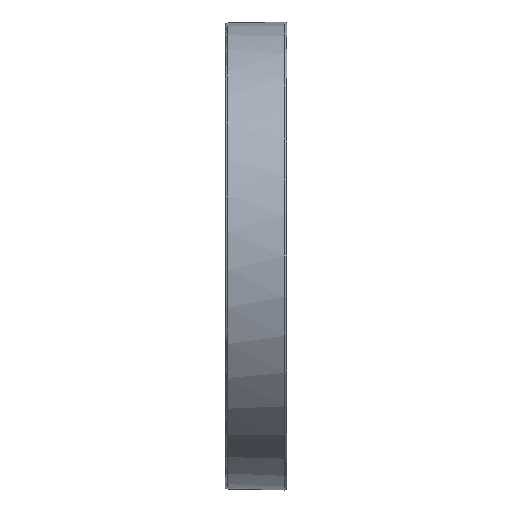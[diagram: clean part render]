
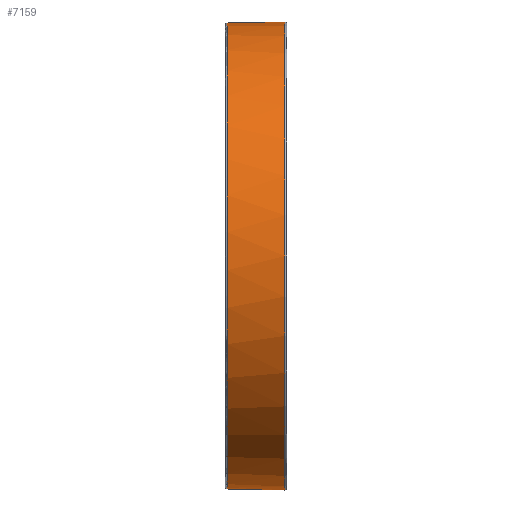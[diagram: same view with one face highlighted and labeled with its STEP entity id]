
A CAD part, left-side view. The second image highlights one B-rep face of the part: STEP entity #7159.
In plain terms, the highlighted conical face has half-angle 1 degrees and reference radius 60.325 mm.
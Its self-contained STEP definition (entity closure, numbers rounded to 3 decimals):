
#1112 = DIRECTION ( 'NONE',  ( 0., -1., 0.017 ) ) ;
#1464 = CARTESIAN_POINT ( 'NONE',  ( -16.49, 15.384, 57.757 ) ) ;
#1596 = CARTESIAN_POINT ( 'NONE',  ( -47.024, 15.384, 37.369 ) ) ;
#1711 = CARTESIAN_POINT ( 'NONE',  ( -60.053, 15.384, 4.01 ) ) ;
#1846 = CARTESIAN_POINT ( 'NONE',  ( -53.992, 15.384, -26.592 ) ) ;
#1985 = CARTESIAN_POINT ( 'NONE',  ( -24.846, 15.384, -54.711 ) ) ;
#3606 = CARTESIAN_POINT ( 'NONE',  ( 0., 0.509, 60.316 ) ) ;
#4447 = CARTESIAN_POINT ( 'NONE',  ( -21.157, 15.384, 56.24 ) ) ;
#4569 = CARTESIAN_POINT ( 'NONE',  ( -48.814, 15.384, 35. ) ) ;
#4700 = CARTESIAN_POINT ( 'NONE',  ( -60.034, 15.384, -1.931 ) ) ;
#4831 = CARTESIAN_POINT ( 'NONE',  ( -48.888, 15.384, -34.937 ) ) ;
#4954 = CARTESIAN_POINT ( 'NONE',  ( -19.393, 15.384, -56.873 ) ) ;
#4988 = DIRECTION ( 'NONE',  ( 0., 1., 0. ) ) ;
#5304 = ORIENTED_EDGE ( 'NONE', *, *, #8971, .T. ) ;
#7159 = ADVANCED_FACE ( 'NONE', ( #9709 ), #15804, .T. ) ;
#7442 = CARTESIAN_POINT ( 'NONE',  ( -26.54, 15.384, 53.91 ) ) ;
#7571 = CARTESIAN_POINT ( 'NONE',  ( -52.11, 15.384, 30.113 ) ) ;
#7687 = CARTESIAN_POINT ( 'NONE',  ( -59.866, 15.384, -4.882 ) ) ;
#7814 = CARTESIAN_POINT ( 'NONE',  ( -45.204, 15.384, -39.59 ) ) ;
#7951 = CARTESIAN_POINT ( 'NONE',  ( -15.63, 15.384, -57.995 ) ) ;
#8255 = CARTESIAN_POINT ( 'NONE',  ( 0., 0.509, -60.316 ) ) ;
#8971 = EDGE_CURVE ( 'NONE', #28688, #20255, #33424, .T. ) ;
#9420 = EDGE_CURVE ( 'NONE', #17404, #28688, #32938, .T. ) ;
#9709 = FACE_OUTER_BOUND ( 'NONE', #21672, .T. ) ;
#10026 = CARTESIAN_POINT ( 'NONE',  ( -3.919, 15.384, 60.056 ) ) ;
#10411 = CARTESIAN_POINT ( 'NONE',  ( -29.995, 15.384, 52.039 ) ) ;
#10532 = CARTESIAN_POINT ( 'NONE',  ( -55.84, 15.384, 22.127 ) ) ;
#10656 = CARTESIAN_POINT ( 'NONE',  ( -59.293, 15.384, -9.746 ) ) ;
#10786 = CARTESIAN_POINT ( 'NONE',  ( -39.726, 15.384, -45.21 ) ) ;
#10916 = CARTESIAN_POINT ( 'NONE',  ( -12.75, 15.384, -58.696 ) ) ;
#11051 = LINE ( 'NONE', #33916, #18105 ) ;
#11239 = ORIENTED_EDGE ( 'NONE', *, *, #23314, .T. ) ;
#13426 = CARTESIAN_POINT ( 'NONE',  ( -32.529, 15.384, 50.494 ) ) ;
#13556 = CARTESIAN_POINT ( 'NONE',  ( -56.864, 15.384, 19.346 ) ) ;
#13691 = CARTESIAN_POINT ( 'NONE',  ( -58.059, 15.384, -15.485 ) ) ;
#13812 = CARTESIAN_POINT ( 'NONE',  ( -32.612, 15.384, -50.44 ) ) ;
#13946 = CARTESIAN_POINT ( 'NONE',  ( -3.967, 15.384, -60.056 ) ) ;
#15804 = CONICAL_SURFACE ( 'NONE', #36925, 60.325, 0.017 ) ;
#16333 = CARTESIAN_POINT ( 'NONE',  ( -12.651, 15.384, 58.717 ) ) ;
#16466 = CARTESIAN_POINT ( 'NONE',  ( -39.666, 15.384, 45.263 ) ) ;
#16588 = CARTESIAN_POINT ( 'NONE',  ( -58.037, 15.384, 15.57 ) ) ;
#16706 = CARTESIAN_POINT ( 'NONE',  ( -56.897, 15.384, -19.248 ) ) ;
#16833 = DIRECTION ( 'NONE',  ( 0., 0., 1. ) ) ;
#16844 = CARTESIAN_POINT ( 'NONE',  ( -30.077, 15.384, -51.991 ) ) ;
#17109 = VECTOR ( 'NONE', #29066, 1000. ) ;
#17404 = VERTEX_POINT ( 'NONE', #26909 ) ;
#18105 = VECTOR ( 'NONE', #1112, 1000. ) ;
#19307 = CARTESIAN_POINT ( 'NONE',  ( -15.54, 15.384, 58.02 ) ) ;
#19428 = CARTESIAN_POINT ( 'NONE',  ( -45.142, 15.384, 39.659 ) ) ;
#19558 = CARTESIAN_POINT ( 'NONE',  ( -59.662, 15.384, 7.908 ) ) ;
#19688 = CARTESIAN_POINT ( 'NONE',  ( -55.875, 15.384, -22.039 ) ) ;
#19811 = CARTESIAN_POINT ( 'NONE',  ( -26.617, 15.384, -53.872 ) ) ;
#20255 = VERTEX_POINT ( 'NONE', #3606 ) ;
#21672 = EDGE_LOOP ( 'NONE', ( #11239, #25598, #5304, #28129 ) ) ;
#21978 = AXIS2_PLACEMENT_3D ( 'NONE', #22855, #4988, #25873 ) ;
#22307 = CARTESIAN_POINT ( 'NONE',  ( -19.313, 15.384, 56.9 ) ) ;
#22443 = CARTESIAN_POINT ( 'NONE',  ( -47.636, 15.384, 36.586 ) ) ;
#22569 = CARTESIAN_POINT ( 'NONE',  ( -60.057, 15.384, -0.939 ) ) ;
#22681 = CARTESIAN_POINT ( 'NONE',  ( 0., 0., 0. ) ) ;
#22694 = CARTESIAN_POINT ( 'NONE',  ( -52.15, 15.384, -30.043 ) ) ;
#22822 = CARTESIAN_POINT ( 'NONE',  ( -21.234, 15.384, -56.211 ) ) ;
#22855 = CARTESIAN_POINT ( 'NONE',  ( 0., 0.509, 0. ) ) ;
#23314 = EDGE_CURVE ( 'NONE', #34142, #17404, #38640, .T. ) ;
#24899 = CARTESIAN_POINT ( 'NONE',  ( 0., 15.384, 60.056 ) ) ;
#25320 = CARTESIAN_POINT ( 'NONE',  ( -24.771, 15.384, 54.745 ) ) ;
#25443 = CARTESIAN_POINT ( 'NONE',  ( -49.381, 15.384, 34.195 ) ) ;
#25573 = CARTESIAN_POINT ( 'NONE',  ( -59.938, 15.384, -3.901 ) ) ;
#25598 = ORIENTED_EDGE ( 'NONE', *, *, #9420, .T. ) ;
#25705 = CARTESIAN_POINT ( 'NONE',  ( -47.717, 15.384, -36.521 ) ) ;
#25840 = CARTESIAN_POINT ( 'NONE',  ( -16.578, 15.384, -57.732 ) ) ;
#25873 = DIRECTION ( 'NONE',  ( 0., 0., -1. ) ) ;
#26909 = CARTESIAN_POINT ( 'NONE',  ( 0., 15.384, -60.056 ) ) ;
#28129 = ORIENTED_EDGE ( 'NONE', *, *, #28326, .F. ) ;
#28287 = CARTESIAN_POINT ( 'NONE',  ( -29.139, 15.384, 52.523 ) ) ;
#28326 = EDGE_CURVE ( 'NONE', #34142, #20255, #11051, .T. ) ;
#28411 = CARTESIAN_POINT ( 'NONE',  ( -53.956, 15.384, 26.665 ) ) ;
#28547 = CARTESIAN_POINT ( 'NONE',  ( -59.579, 15.384, -7.811 ) ) ;
#28662 = CARTESIAN_POINT ( 'NONE',  ( -43.882, 15.384, -41.049 ) ) ;
#28688 = VERTEX_POINT ( 'NONE', #8255 ) ;
#28783 = CARTESIAN_POINT ( 'NONE',  ( -13.717, 15.384, -58.477 ) ) ;
#28937 = CARTESIAN_POINT ( 'NONE',  ( 0., 0., -60.325 ) ) ;
#29066 = DIRECTION ( 'NONE',  ( 0., -1., -0.017 ) ) ;
#31275 = CARTESIAN_POINT ( 'NONE',  ( -31.689, 15.384, 51.025 ) ) ;
#31402 = CARTESIAN_POINT ( 'NONE',  ( -56.196, 15.384, 21.207 ) ) ;
#31520 = CARTESIAN_POINT ( 'NONE',  ( -58.533, 15.384, -13.583 ) ) ;
#31650 = CARTESIAN_POINT ( 'NONE',  ( -36.706, 15.384, -47.697 ) ) ;
#31792 = CARTESIAN_POINT ( 'NONE',  ( -7.893, 15.384, -59.667 ) ) ;
#32938 = LINE ( 'NONE', #28937, #17109 ) ;
#33424 = CIRCLE ( 'NONE', #21978, 60.316 ) ;
#33769 = CARTESIAN_POINT ( 'NONE',  ( 0., 15.384, 60.056 ) ) ;
#33916 = CARTESIAN_POINT ( 'NONE',  ( 0., 0., 60.325 ) ) ;
#34142 = VERTEX_POINT ( 'NONE', #24899 ) ;
#34150 = CARTESIAN_POINT ( 'NONE',  ( -7.813, 15.384, 59.677 ) ) ;
#34276 = CARTESIAN_POINT ( 'NONE',  ( -36.64, 15.384, 47.748 ) ) ;
#34403 = CARTESIAN_POINT ( 'NONE',  ( -57.176, 15.384, 18.403 ) ) ;
#34535 = CARTESIAN_POINT ( 'NONE',  ( -57.205, 15.384, -18.311 ) ) ;
#34646 = DIRECTION ( 'NONE',  ( 0., -1., 0. ) ) ;
#34655 = CARTESIAN_POINT ( 'NONE',  ( -31.776, 15.384, -50.971 ) ) ;
#34784 = CARTESIAN_POINT ( 'NONE',  ( 0., 15.384, -60.056 ) ) ;
#36925 = AXIS2_PLACEMENT_3D ( 'NONE', #22681, #34646, #16833 ) ;
#37148 = CARTESIAN_POINT ( 'NONE',  ( -13.619, 15.384, 58.5 ) ) ;
#37292 = CARTESIAN_POINT ( 'NONE',  ( -43.822, 15.384, 41.113 ) ) ;
#37414 = CARTESIAN_POINT ( 'NONE',  ( -58.514, 15.384, 13.665 ) ) ;
#37535 = CARTESIAN_POINT ( 'NONE',  ( -56.231, 15.384, -21.115 ) ) ;
#37663 = CARTESIAN_POINT ( 'NONE',  ( -29.219, 15.384, -52.479 ) ) ;
#38640 = B_SPLINE_CURVE_WITH_KNOTS ( 'NONE', 3,
 ( #33769, #10026, #34150, #16333, #37148, #19307, #1464, #22307, #4447, #25320, #7442, #28287, #10411, #31275, #13426, #34276, #16466, #37292, #19428, #1596, #22443, #4569, #25443, #7571, #28411, #10532, #31402, #13556, #34403, #16588, #37414, #19558, #1711, #22569, #4700, #25573, #7687, #28547, #10656, #31520, #13691, #34535, #16706, #37535, #19688, #1846, #22694, #4831, #25705, #7814, #28662, #10786, #31650, #13812, #34655, #16844, #37663, #19811, #1985, #22822, #4954, #25840, #7951, #28783, #10916, #31792, #13946, #34784 ),
 .UNSPECIFIED., .F., .F.,
 ( 4, 2, 2, 2, 2, 2, 2, 2, 2, 2, 2, 2, 2, 2, 2, 2, 2, 2, 2, 2, 2, 2, 2, 2, 2, 2, 2, 2, 2, 2, 2, 2, 2, 4 ),
 ( 0.188, 0.199, 0.202, 0.205, 0.211, 0.217, 0.22, 0.223, 0.235, 0.241, 0.243, 0.246, 0.258, 0.261, 0.264, 0.27, 0.282, 0.285, 0.287, 0.293, 0.299, 0.302, 0.305, 0.317, 0.323, 0.329, 0.34, 0.343, 0.346, 0.352, 0.358, 0.361, 0.364, 0.375 ),
 .UNSPECIFIED. ) ;
